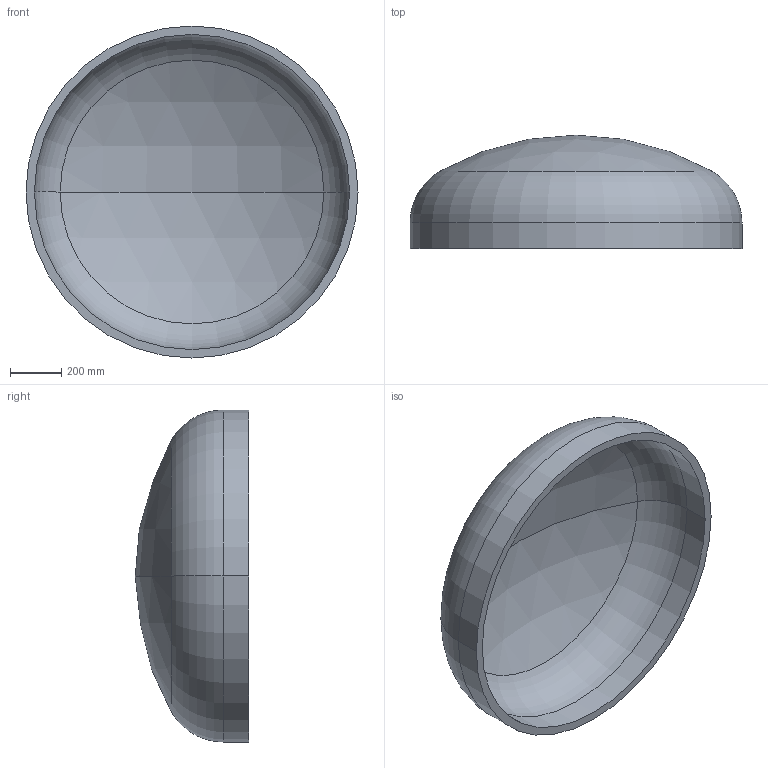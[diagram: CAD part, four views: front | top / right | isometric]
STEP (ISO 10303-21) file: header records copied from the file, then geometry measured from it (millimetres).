
FILE_DESCRIPTION (( 'STEP AP203' ), '1' );
FILE_NAME ('DIN 28013 Korbbogenform_-_Boden DIN 28013 - 1300 x 100 - I - s=33.step', '2016-07-01T09:49:05', ( '' ), ( '' ), 'SwSTEP 2.0', 'SolidWorks 2013', '' );
FILE_SCHEMA (( 'CONFIG_CONTROL_DESIGN' ));
Length unit declared in the file: millimetre
Products named in the file (1): DIN 28013 Korbbogenform_-_Boden DIN 28013 - 1300 x 100 - I - s=33
Bounding box: 1300 x 443.81 x 1300 mm (x, y, z)
Volume: 71802275 mm3; surface area: 4485285.7 mm2
Topology: 1 solids, 1 shells, 13 faces, 24 edges, 14 vertices
Faces by surface type: torus 4, cylinder 4, sphere 4, plane 1
Entity records: 407 total; most frequent: DIRECTION 72, CARTESIAN_POINT 52, ORIENTED_EDGE 48, AXIS2_PLACEMENT_3D 34, EDGE_CURVE 24, CIRCLE 20, VERTEX_POINT 14, EDGE_LOOP 14
